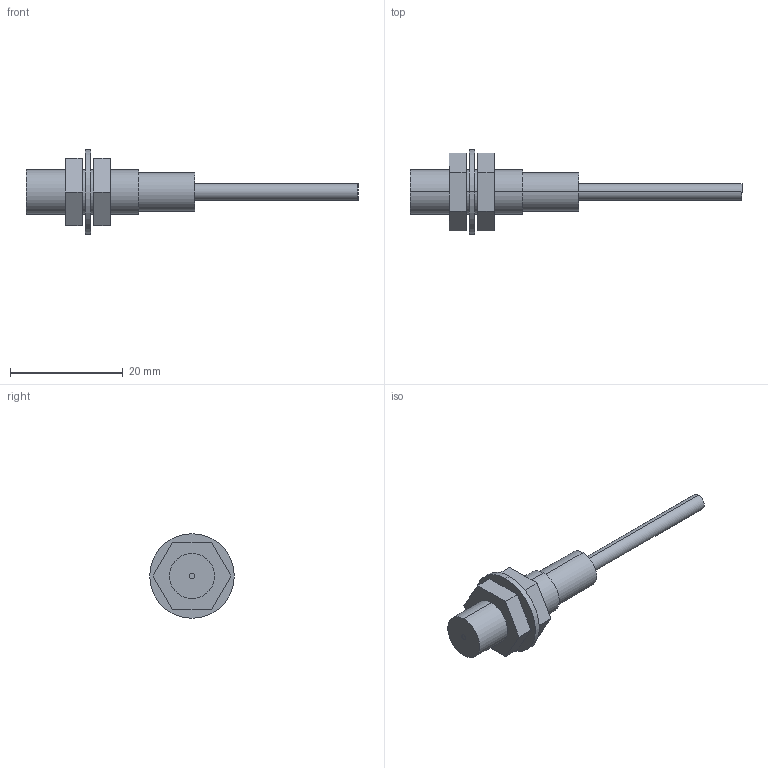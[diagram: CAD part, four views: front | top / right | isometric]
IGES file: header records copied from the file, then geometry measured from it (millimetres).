
Start section: SolidWorks IGES FILE using analytic representation for surfaces
Global section: file name: C:\Documents and Settings\yk0651\デスクトップ\3D_catalog_050929\0_IGES\GX-8MU.IGS; native system: SolidWorks 2004 by SolidWorks Corporation; preprocessor: Version 5.3; author: yk0651; date: 051002.163900; units: millimetre
Bounding box: 59 x 15 x 15 mm (x, y, z)
Volume: 2133 mm3; surface area: 2104.8 mm2
Topology: 4 solids, 4 shells, 42 faces, 90 edges, 60 vertices
Faces by surface type: plane 24, revolution 18
